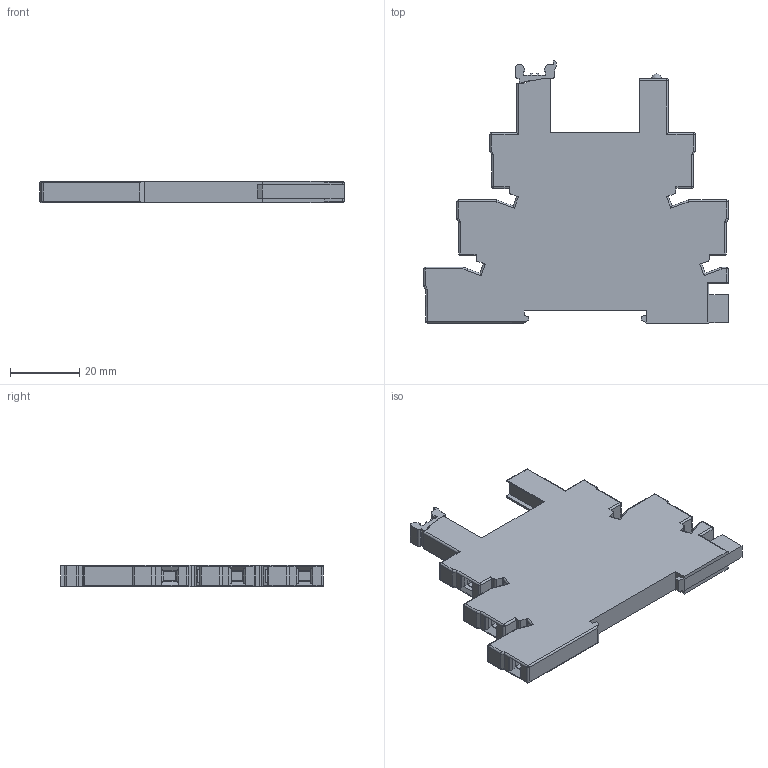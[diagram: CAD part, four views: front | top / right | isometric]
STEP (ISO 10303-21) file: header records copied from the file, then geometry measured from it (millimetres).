
FILE_DESCRIPTION(('STEP AP214'),'2;1');
FILE_NAME('93.01---skin.stp','2010-04-23T10:04:32',(''),(''),'2007.1.106','THINKDESIGN','');
FILE_SCHEMA(('AUTOMOTIVE_DESIGN'));
Length unit declared in the file: millimetre
Products named in the file (1): None
Bounding box: 87.85 x 75.58 x 6.2 mm (x, y, z)
Surface area: 12635.1 mm2 (no closed solid volume)
Topology: 0 solids, 0 shells, 473 faces, 2438 edges, 2410 vertices
Faces by surface type: plane 315, cylinder 126, bspline 32
Full cylindrical faces by diameter (mm): 2.2 x5, 2.459 x5, 3.8 x5, 4 x5
Entity records: 25050 total; most frequent: CARTESIAN_POINT 6888, DIRECTION 3202, COMPOSITE_CURVE_SEGMENT 2410, TRIMMED_CURVE 2108, VECTOR 1896, LINE 1896, AXIS2_PLACEMENT_3D 653, OUTER_BOUNDARY_CURVE 473
